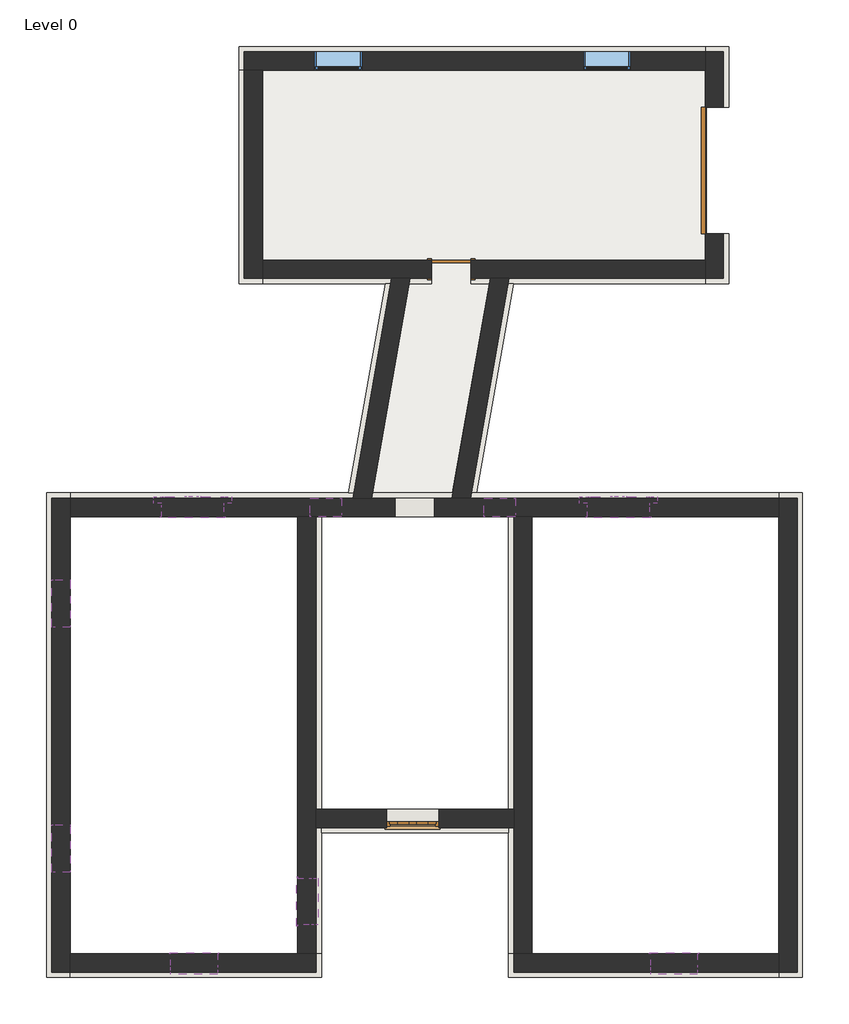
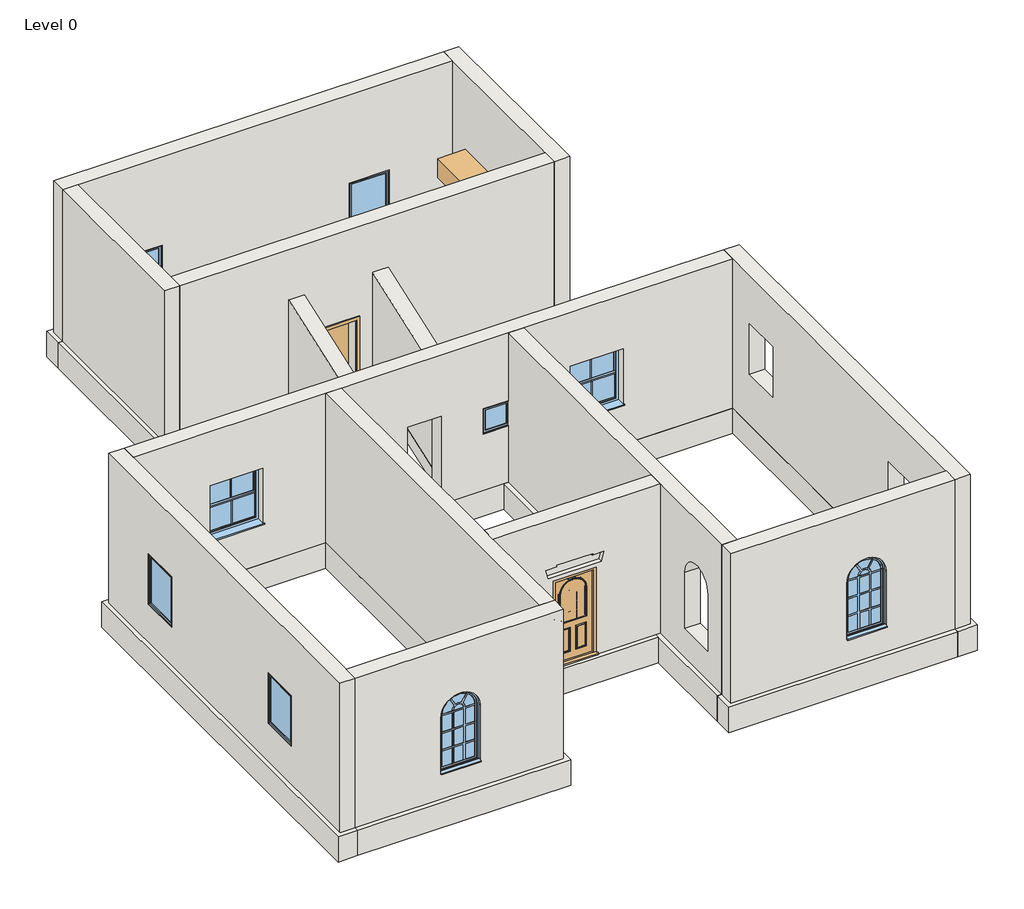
# One storey, incomplete: 28 walls, 11 windows, 3 doors, 1 slab.
"""IFC4 building model written with IfcOpenShell, lengths in millimetres."""

from ifc_helpers import new_model, si_unit, point, frame, frame_2d, origin, origin_with_axes, place, context, project, spatial, polyline, circle_curve, trimmed, segment, composite_curve, outline, extrude, faceted_brep, transform, mapped, element, save
from ifc_brep_helpers import plane_surface, revolved_surface, advanced_brep
from components import door_09d20fc0, door_c5eb6496, uk_extsgl_mdrn_4_1010_x_2110mm_24322308, window_c64d902a, window_15c49d37, uk_mdrn_arched_head_1_uk_mdrn_arched_head_1_ec82c09f, uk_mdrn_arched_head_1_uk_mdrn_arched_head_1_e3e941a3, uk_window_assembly_uk_window_assembly_1f99bae2

model = new_model("IFC4")

# Units and contexts
model_context = context("Model", 3, world=origin())
ifc_project = project(units=[si_unit("LENGTHUNIT", "METRE", prefix="MILLI")], contexts=[model_context])

# Site, building, storey
site = spatial("IfcSite", under=ifc_project)
building = spatial("IfcBuilding", under=site)
storey = spatial("IfcBuildingStorey", under=building, Name="Level 0", Elevation=0.0)

# Doors
placement = place(None, origin())
door_shape = door_09d20fc0(model_context)
element("IfcDoor", 1, ObjectType="Overhead-Rolling : 8' x 6'-6\"", at=placement, inside=storey, context=model_context, shape_type="MappedRepresentation", body=[
    mapped(door_shape, transform((-5844.7185302, 19230.4795167, 0.0), x_axis=(0.0, 1.0, 0.0), y_axis=(-1.0, 0.0, 0.0), z_axis=(0.0, 0.0, 1.0))),
])
door_2_shape = door_c5eb6496(model_context)
element("IfcDoor", 2, ObjectType="Single-Flush : 30\" x 80\"", at=placement, inside=storey, context=model_context, shape_type="MappedRepresentation", body=[
    mapped(door_2_shape, transform((-10970.3286166, 17329.2773619, 0.0), x_axis=(1.0, 0.0, 0.0), y_axis=(0.0, 1.0, 0.0), z_axis=(0.0, 0.0, 1.0))),
])
uk_extsgl_mdrn_4_1010_x_2110mm_shape = uk_extsgl_mdrn_4_1010_x_2110mm_24322308(model_context)
element("IfcDoor", 3, ObjectType="UK_ExtSgl Mdrn 4 : 1010 x 2110mm", at=placement, inside=storey, context=model_context, shape_type="MappedRepresentation", body=[
    mapped(uk_extsgl_mdrn_4_1010_x_2110mm_shape, transform((-11712.9470091, 6742.7649351, 609.6), x_axis=(1.0, 0.0, 0.0), y_axis=(0.0, 1.0, 0.0), z_axis=(0.0, 0.0, 1.0))),
])

# Slab
element("IfcSlab", 4, ObjectType="Wood Joist 10\" - Wood Finish", at=placement, inside=storey, context=model_context, shape_type="SweptSolid", body=[
    extrude(outline(polyline([(-14633.1185302, 21190.0773619), (-6047.9185302, 21190.0773619), (-6047.9185302, 17481.6773619), (-10154.821643, 17481.6773619), (-10959.9276223, 12915.6944585), (-12510.6617584, 12915.6944585), (-11705.555779, 17481.6773619), (-14633.1185302, 17481.6773619), (-14633.1185302, 21190.0773619)])), frame((0.0, 0.0, -19.05), z_axis=(0.0, 0.0, 1.0), x_axis=(1.0, 0.0, 0.0)), (0.0, 0.0, 1.0), 273.05),
])

# Walls
element("IfcWall", 5, ObjectType="Exterior - Brick on Mtl. Stud", at=placement, inside=storey, context=model_context, shape_type="Brep", body=[
    faceted_brep([(-4299.6309015, 3782.4698798, 609.6), (-4299.6309015, 12915.6944585, 609.6), (-4299.6309015, 12915.6944585, 4212.4585686), (-4299.6309015, 3782.4698798, 4212.4585686), (-4299.6309015, 11897.3774351, 3048.0), (-4299.6309015, 11897.3774351, 1828.8), (-4299.6309015, 10982.9774351, 1828.8), (-4299.6309015, 10982.9774351, 3048.0), (-4299.6309015, 6410.9774351, 3048.0), (-4299.6309015, 6410.9774351, 1828.8), (-4299.6309015, 5496.5774351, 1828.8), (-4299.6309015, 5496.5774351, 3048.0), (-4652.0559015, 12915.6944585, 609.6), (-4652.0559015, 12563.2694585, 609.6), (-4652.0559015, 3782.4698798, 609.6), (-4652.0559015, 3782.4698798, 4212.4585686), (-4652.0559015, 12563.2694585, 4212.4585686), (-4652.0559015, 12915.6944585, 4212.4585686), (-4652.0559015, 11897.3774351, 1828.8), (-4652.0559015, 11897.3774351, 3048.0), (-4652.0559015, 10982.9774351, 3048.0), (-4652.0559015, 10982.9774351, 1828.8), (-4652.0559015, 6410.9774351, 1828.8), (-4652.0559015, 6410.9774351, 3048.0), (-4652.0559015, 5496.5774351, 3048.0), (-4652.0559015, 5496.5774351, 1828.8)], [[[0, 1, 2, 3], [4, 5, 6, 7], [8, 9, 10, 11]], [[12, 13, 14, 15, 16, 17], [18, 19, 20, 21], [22, 23, 24, 25]], [[1, 0, 14, 13, 12]], [[3, 2, 17, 16, 15]], [[2, 1, 12, 17]], [[0, 3, 15, 14]], [[4, 19, 18, 5]], [[5, 18, 21, 6]], [[6, 21, 20, 7]], [[19, 4, 7, 20]], [[8, 23, 22, 9]], [[9, 22, 25, 10]], [[10, 25, 24, 11]], [[23, 8, 11, 24]]]),
])
element("IfcWall", 6, ObjectType="Exterior - Brick on Mtl. Stud", at=placement, inside=storey, context=model_context, shape_type="Brep", body=[
    faceted_brep([(-18320.4309015, 12915.6944585, 4212.4585686), (-4652.0559015, 12915.6944585, 4212.4585686), (-4652.0559015, 12915.6944585, 609.6), (-18320.4309015, 12915.6944585, 609.6), (-11292.3810809, 12915.6944585, 711.2), (-11292.3810809, 12915.6944585, 2743.2), (-12054.3810809, 12915.6944585, 2743.2), (-12054.3810809, 12915.6944585, 711.2), (-10339.7673758, 12915.6944585, 2580.5263388), (-10339.7673758, 12915.6944585, 1970.9263388), (-9730.1673758, 12915.6944585, 1970.9263388), (-9730.1673758, 12915.6944585, 2580.5263388), (-13692.5673758, 12915.6944585, 2580.5263388), (-13692.5673758, 12915.6944585, 1970.9263388), (-13082.9673758, 12915.6944585, 1970.9263388), (-13082.9673758, 12915.6944585, 2580.5263388), (-15358.9265784, 12915.6944585, 2912.1863053), (-16558.9265784, 12915.6944585, 2912.1863053), (-16558.9265784, 12915.6944585, 1562.1863053), (-15358.9265784, 12915.6944585, 1562.1863053), (-7148.9673758, 12915.6944585, 2912.1863053), (-8348.9673758, 12915.6944585, 2912.1863053), (-8348.9673758, 12915.6944585, 1562.1863053), (-7148.9673758, 12915.6944585, 1562.1863053), (-4652.0559015, 12563.2694585, 4212.4585686), (-9411.2024004, 12563.2694585, 4212.4585686), (-9763.6274004, 12563.2694585, 4212.4585686), (-13576.8024004, 12563.2694585, 4212.4585686), (-13929.2274004, 12563.2694585, 4212.4585686), (-18320.4309015, 12563.2694585, 4212.4585686), (-18320.4309015, 12563.2694585, 609.6), (-13929.2274004, 12563.2694585, 609.6), (-13576.8024004, 12563.2694585, 609.6), (-9763.6274004, 12563.2694585, 609.6), (-9411.2024004, 12563.2694585, 609.6), (-4652.0559015, 12563.2694585, 609.6), (-11292.3810809, 12563.2694585, 2743.2), (-11292.3810809, 12563.2694585, 711.2), (-12054.3810809, 12563.2694585, 711.2), (-12054.3810809, 12563.2694585, 2743.2), (-10339.7673758, 12563.2694585, 1970.9263388), (-10339.7673758, 12563.2694585, 2580.5263388), (-9730.1673758, 12563.2694585, 2580.5263388), (-9730.1673758, 12563.2694585, 1970.9263388), (-13692.5673758, 12563.2694585, 1970.9263388), (-13692.5673758, 12563.2694585, 2580.5263388), (-13082.9673758, 12563.2694585, 2580.5263388), (-13082.9673758, 12563.2694585, 1970.9263388), (-16558.9265784, 12563.2694585, 2912.1863053), (-15358.9265784, 12563.2694585, 2912.1863053), (-15358.9265784, 12563.2694585, 1562.1863053), (-16558.9265784, 12563.2694585, 1562.1863053), (-8348.9673758, 12563.2694585, 2912.1863053), (-7148.9673758, 12563.2694585, 2912.1863053), (-7148.9673758, 12563.2694585, 1562.1863053), (-8348.9673758, 12563.2694585, 1562.1863053)], [[[0, 1, 2, 3], [4, 5, 6, 7], [8, 9, 10, 11], [12, 13, 14, 15], [16, 17, 18, 19], [20, 21, 22, 23]], [[24, 25, 26, 27, 28, 29, 30, 31, 32, 33, 34, 35], [36, 37, 38, 39], [40, 41, 42, 43], [44, 45, 46, 47], [48, 49, 50, 51], [52, 53, 54, 55]], [[1, 0, 29, 28, 27, 26, 25, 24]], [[3, 2, 35, 34, 33, 32, 31, 30]], [[2, 1, 24, 35]], [[0, 3, 30, 29]], [[37, 4, 7, 38]], [[4, 37, 36, 5]], [[5, 36, 39, 6]], [[6, 39, 38, 7]], [[8, 41, 40, 9]], [[9, 40, 43, 10]], [[10, 43, 42, 11]], [[41, 8, 11, 42]], [[12, 45, 44, 13]], [[13, 44, 47, 14]], [[14, 47, 46, 15]], [[45, 12, 15, 46]], [[16, 49, 48, 17]], [[17, 48, 51, 18]], [[18, 51, 50, 19]], [[49, 16, 19, 50]], [[20, 53, 52, 21]], [[21, 52, 55, 22]], [[22, 55, 54, 23]], [[53, 20, 23, 54]]]),
])
element("IfcWall", 7, ObjectType="Exterior - Brick on Mtl. Stud", at=placement, inside=storey, context=model_context, shape_type="Brep", body=[
    faceted_brep([(-18672.8559015, 12915.6944585, 609.6), (-18672.8559015, 3782.4698798, 609.6), (-18672.8559015, 3782.4698798, 4212.4585686), (-18672.8559015, 12915.6944585, 4212.4585686), (-18672.8559015, 6620.5693986, 1524.0), (-18672.8559015, 6620.5693986, 2743.2), (-18672.8559015, 5706.1693986, 2743.2), (-18672.8559015, 5706.1693986, 1524.0), (-18672.8559015, 11344.9693986, 1524.0), (-18672.8559015, 11344.9693986, 2743.2), (-18672.8559015, 10430.5693986, 2743.2), (-18672.8559015, 10430.5693986, 1524.0), (-18320.4309015, 3782.4698798, 609.6), (-18320.4309015, 4134.8948798, 609.6), (-18320.4309015, 12563.2694585, 609.6), (-18320.4309015, 12915.6944585, 609.6), (-18320.4309015, 12915.6944585, 4212.4585686), (-18320.4309015, 12563.2694585, 4212.4585686), (-18320.4309015, 4134.8948798, 4212.4585686), (-18320.4309015, 3782.4698798, 4212.4585686), (-18320.4309015, 6620.5693986, 2743.2), (-18320.4309015, 6620.5693986, 1524.0), (-18320.4309015, 5706.1693986, 1524.0), (-18320.4309015, 5706.1693986, 2743.2), (-18320.4309015, 11344.9693986, 2743.2), (-18320.4309015, 11344.9693986, 1524.0), (-18320.4309015, 10430.5693986, 1524.0), (-18320.4309015, 10430.5693986, 2743.2)], [[[0, 1, 2, 3], [4, 5, 6, 7], [8, 9, 10, 11]], [[12, 13, 14, 15, 16, 17, 18, 19], [20, 21, 22, 23], [24, 25, 26, 27]], [[1, 0, 15, 14, 13, 12]], [[3, 2, 19, 18, 17, 16]], [[2, 1, 12, 19]], [[0, 3, 16, 15]], [[20, 5, 4, 21]], [[21, 4, 7, 22]], [[22, 7, 6, 23]], [[5, 20, 23, 6]], [[24, 9, 8, 25]], [[25, 8, 11, 26]], [[26, 11, 10, 27]], [[9, 24, 27, 10]]]),
])
element("IfcWall", 8, ObjectType="Exterior - Brick on Mtl. Stud", at=placement, inside=storey, context=model_context, shape_type="AdvancedBrep", body=[
    advanced_brep(
    [(-18320.4309015, 3782.4698798, 609.6), (-13576.8024004, 3782.4698798, 609.6), (-13576.8024004, 3782.4698798, 4212.4585686), (-18320.4309015, 3782.4698798, 4212.4585686), (-16376.4318331, 3782.4698798, 2569.2), (-15476.4318331, 3782.4698798, 2569.2), (-15476.4318331, 3782.4698798, 1219.2), (-16376.4318331, 3782.4698798, 1219.2), (-13576.8024004, 4134.8948798, 609.6), (-13929.2274004, 4134.8948798, 609.6), (-18320.4309015, 4134.8948798, 609.6), (-18320.4309015, 4134.8948798, 4212.4585686), (-13929.2274004, 4134.8948798, 4212.4585686), (-13576.8024004, 4134.8948798, 4212.4585686), (-15476.4318331, 4134.8948798, 2569.2), (-16376.4318331, 4134.8948798, 2569.2), (-16376.4318331, 4134.8948798, 1219.2), (-15476.4318331, 4134.8948798, 1219.2)],
    [
        (0, 1),
        (1, 2),
        (2, 3),
        (3, 0),
        (4, 5, circle_curve(frame((-15926.4318331, 3782.4698798, 2569.2), z_axis=(0.0, 1.0, 0.0), x_axis=(1.0, 0.0, 0.0)), 450.0)),
        (5, 6),
        (6, 7),
        (7, 4),
        (8, 9),
        (9, 10),
        (10, 11),
        (11, 12),
        (12, 13),
        (13, 8),
        (14, 15, circle_curve(frame((-15926.4318331, 4134.8948798, 2569.2), z_axis=(0.0, -1.0, 0.0), x_axis=(1.0, 0.0, 0.0)), 450.0)),
        (15, 16),
        (16, 17),
        (17, 14),
        (0, 10),
        (8, 1),
        (2, 13),
        (11, 3),
        (15, 4),
        (7, 16),
        (14, 5),
        (17, 6),
    ],
    [
        plane_surface(frame((-18496.6434015, 3782.4698798, 609.6), z_axis=(0.0, -1.0, 0.0), x_axis=(1.0, 0.0, 0.0))),
        plane_surface(frame((-18496.6434015, 4134.8948798, 609.6), z_axis=(0.0, 1.0, 0.0), x_axis=(-1.0, 0.0, 0.0))),
        plane_surface(frame((-18496.6434015, 3782.4698798, 609.6), z_axis=(0.0, 0.0, -1.0), x_axis=(0.0, 1.0, 0.0))),
        plane_surface(frame((-13753.0149004, 3782.4698798, 4212.4585686), z_axis=(0.0, 0.0, 1.0), x_axis=(0.0, 1.0, 0.0))),
        plane_surface(frame((-13576.8024004, 3674.7008031, 609.6), z_axis=(1.0, 0.0, 0.0), x_axis=(0.0, 1.0, 0.0))),
        plane_surface(frame((-18320.4309015, 19632.940843, 609.6), z_axis=(-1.0, 0.0, 0.0), x_axis=(0.0, 1.0, 0.0))),
        plane_surface(frame((-16376.4318331, 5658.8948798, 1219.2), z_axis=(1.0, 0.0, 0.0), x_axis=(0.0, -1.0, 0.0))),
        revolved_surface(polyline([(-15476.4318331, 4134.8948798, 2569.2), (-15476.4318331, 3782.4698798, 2569.2)]), (-15926.4318331, 2610.8948798, 2569.2), (0.0, 1.0, 0.0)),
        plane_surface(frame((-15476.4318331, 5658.8948798, 2569.2), z_axis=(-1.0, 0.0, 0.0), x_axis=(0.0, -1.0, 0.0))),
        plane_surface(frame((-15476.4318331, 5658.8948798, 1219.2), z_axis=(0.0, 0.0, 1.0), x_axis=(0.0, -1.0, 0.0))),
    ],
    [
        (0, [[1, 2, 3, 4], [5, 6, 7, 8]]),
        (1, [[9, 10, 11, 12, 13, 14], [15, 16, 17, 18]]),
        (2, [[-1, 19, -10, -9, 20]]),
        (3, [[-3, 21, -13, -12, 22]]),
        (4, [[-2, -20, -14, -21]]),
        (5, [[-4, -22, -11, -19]]),
        (6, [[23, -8, 24, -16]]),
        (7, [[-23, -15, 25, -5]]),
        (8, [[-25, -18, 26, -6]]),
        (9, [[-24, -7, -26, -17]]),
    ],
),
])
element("IfcWall", 9, ObjectType="Exterior - Brick on Mtl. Stud", at=placement, inside=storey, context=model_context, shape_type="AdvancedBrep", body=[
    advanced_brep(
    [(-13576.8024004, 4134.8948798, 609.6), (-13576.8024004, 6566.5524351, 609.6), (-13576.8024004, 6918.9774351, 609.6), (-13576.8024004, 12563.2694585, 609.6), (-13576.8024004, 12563.2694585, 4212.4585686), (-13576.8024004, 6918.9774351, 4212.4585686), (-13576.8024004, 6566.5524351, 4212.4585686), (-13576.8024004, 4134.8948798, 4212.4585686), (-13576.8024004, 5592.0194631, 2569.2), (-13576.8024004, 5592.0194631, 1219.2), (-13576.8024004, 4692.0194631, 1219.2), (-13576.8024004, 4692.0194631, 2569.2), (-13929.2274004, 12563.2694585, 609.6), (-13929.2274004, 4134.8948798, 609.6), (-13929.2274004, 4134.8948798, 4212.4585686), (-13929.2274004, 12563.2694585, 4212.4585686), (-13929.2274004, 5592.0194631, 1219.2), (-13929.2274004, 5592.0194631, 2569.2), (-13929.2274004, 4692.0194631, 2569.2), (-13929.2274004, 4692.0194631, 1219.2)],
    [
        (0, 1),
        (1, 2),
        (2, 3),
        (3, 4),
        (4, 5),
        (5, 6),
        (6, 7),
        (7, 0),
        (8, 9),
        (9, 10),
        (10, 11),
        (11, 8, circle_curve(frame((-13576.8024004, 5142.0194631, 2569.2), z_axis=(-1.0, 0.0, 0.0), x_axis=(0.0, -1.0, 0.0)), 450.0)),
        (12, 13),
        (13, 14),
        (14, 15),
        (15, 12),
        (16, 17),
        (17, 18, circle_curve(frame((-13929.2274004, 5142.0194631, 2569.2), z_axis=(1.0, 0.0, 0.0), x_axis=(0.0, -1.0, 0.0)), 450.0)),
        (18, 19),
        (19, 16),
        (0, 13),
        (12, 3),
        (4, 15),
        (14, 7),
        (16, 9),
        (8, 17),
        (11, 18),
        (10, 19),
    ],
    [
        plane_surface(frame((-13576.8024004, 3674.7008031, 609.6), z_axis=(1.0, 0.0, 0.0), x_axis=(0.0, 1.0, 0.0))),
        plane_surface(frame((-13929.2274004, 3674.7008031, 609.6), z_axis=(-1.0, 0.0, 0.0), x_axis=(0.0, -1.0, 0.0))),
        plane_surface(frame((-13576.8024004, 3958.6823798, 609.6), z_axis=(0.0, 0.0, -1.0), x_axis=(-1.0, 0.0, 0.0))),
        plane_surface(frame((-13576.8024004, 12739.4819585, 4212.4585686), z_axis=(0.0, 0.0, 1.0), x_axis=(-1.0, 0.0, 0.0))),
        plane_surface(frame((-18496.6434015, 4134.8948798, 609.6), z_axis=(0.0, -1.0, 0.0), x_axis=(-1.0, 0.0, 0.0))),
        plane_surface(frame((-18496.6434015, 12563.2694585, 4212.4585686), z_axis=(0.0, 1.0, 0.0), x_axis=(-1.0, 0.0, 0.0))),
        plane_surface(frame((-12405.2274004, 5592.0194631, 1219.2), z_axis=(0.0, -1.0, 0.0), x_axis=(-1.0, 0.0, 0.0))),
        revolved_surface(polyline([(-13576.8024004, 4692.0194631, 2569.2), (-13929.2274004, 4692.0194631, 2569.2)]), (-15453.2274004, 5142.0194631, 2569.2), (1.0, 0.0, 0.0)),
        plane_surface(frame((-12405.2274004, 4692.0194631, 2569.2), z_axis=(0.0, 1.0, 0.0), x_axis=(-1.0, 0.0, 0.0))),
        plane_surface(frame((-12405.2274004, 4692.0194631, 1219.2), z_axis=(0.0, 0.0, 1.0), x_axis=(-1.0, 0.0, 0.0))),
    ],
    [
        (0, [[1, 2, 3, 4, 5, 6, 7, 8], [9, 10, 11, 12]]),
        (1, [[13, 14, 15, 16], [17, 18, 19, 20]]),
        (2, [[-3, -2, -1, 21, -13, 22]]),
        (3, [[-7, -6, -5, 23, -15, 24]]),
        (4, [[-8, -24, -14, -21]]),
        (5, [[-4, -22, -16, -23]]),
        (6, [[25, -9, 26, -17]]),
        (7, [[-26, -12, 27, -18]]),
        (8, [[-27, -11, 28, -19]]),
        (9, [[-25, -20, -28, -10]]),
    ],
),
])
element("IfcWall", 10, ObjectType="Exterior - Brick on Mtl. Stud", at=placement, inside=storey, context=model_context, shape_type="Brep", body=[
    faceted_brep([(-9763.6274004, 6566.5524351, 4212.4585686), (-13576.8024004, 6566.5524351, 4212.4585686), (-13576.8024004, 6566.5524351, 609.6), (-12217.9470091, 6566.5524351, 609.6), (-12217.9470091, 6566.5524351, 2719.6), (-11207.9470091, 6566.5524351, 2719.6), (-11207.9470091, 6566.5524351, 609.6), (-9763.6274004, 6566.5524351, 609.6), (-12375.5560855, 6566.5524351, 3031.231944), (-12110.5560855, 6566.5524351, 3031.231944), (-12120.6041802, 6566.5524351, 3068.731944), (-11305.289838, 6566.5524351, 3068.731944), (-11315.3379327, 6566.5524351, 3031.231944), (-11050.3379327, 6566.5524351, 3031.231944), (-11107.9470091, 6566.5524351, 2816.231944), (-12317.9470091, 6566.5524351, 2816.231944), (-13576.8024004, 6918.9774351, 4212.4585686), (-9763.6274004, 6918.9774351, 4212.4585686), (-9763.6274004, 6918.9774351, 609.6), (-9865.2274004, 6918.9774351, 609.6), (-11207.9470091, 6918.9774351, 609.6), (-11207.9470091, 6918.9774351, 2719.6), (-12217.9470091, 6918.9774351, 2719.6), (-12217.9470091, 6918.9774351, 609.6), (-13475.2024004, 6918.9774351, 609.6), (-13576.8024004, 6918.9774351, 609.6), (-12110.5560855, 6666.5524351, 3031.231944), (-12375.5560855, 6666.5524351, 3031.231944), (-12317.9470091, 6666.5524351, 2816.231944), (-11107.9470091, 6666.5524351, 2816.231944), (-11050.3379327, 6666.5524351, 3031.231944), (-11315.3379327, 6666.5524351, 3031.231944), (-11305.289838, 6666.5524351, 3068.731944), (-12120.6041802, 6666.5524351, 3068.731944)], [[[0, 1, 2, 3, 4, 5, 6, 7], [8, 9, 10, 11, 12, 13, 14, 15]], [[16, 17, 18, 19, 20, 21, 22, 23, 24, 25]], [[2, 25, 24, 23, 3]], [[18, 7, 6, 20, 19]], [[1, 0, 17, 16]], [[2, 1, 16, 25]], [[0, 7, 18, 17]], [[22, 4, 3, 23]], [[5, 21, 20, 6]], [[21, 5, 4, 22]], [[26, 27, 28, 29, 30, 31, 32, 33]], [[27, 26, 9, 8]], [[28, 27, 8, 15]], [[29, 28, 15, 14]], [[30, 29, 14, 13]], [[31, 30, 13, 12]], [[32, 31, 12, 11]], [[33, 32, 11, 10]], [[26, 33, 10, 9]]]),
])
element("IfcWall", 11, ObjectType="Exterior - Brick on Mtl. Stud", at=placement, inside=storey, context=model_context, shape_type="AdvancedBrep", body=[
    advanced_brep(
    [(-9763.6274004, 12563.2694585, 609.6), (-9763.6274004, 6918.9774351, 609.6), (-9763.6274004, 6566.5524351, 609.6), (-9763.6274004, 4134.8948798, 609.6), (-9763.6274004, 4134.8948798, 4212.4585686), (-9763.6274004, 6566.5524351, 4212.4585686), (-9763.6274004, 6918.9774351, 4212.4585686), (-9763.6274004, 12563.2694585, 4212.4585686), (-9763.6274004, 4692.0194631, 2665.0), (-9763.6274004, 4692.0194631, 1315.0), (-9763.6274004, 5592.0194631, 1315.0), (-9763.6274004, 5592.0194631, 2665.0), (-9411.2024004, 4134.8948798, 609.6), (-9411.2024004, 12563.2694585, 609.6), (-9411.2024004, 12563.2694585, 4212.4585686), (-9411.2024004, 4134.8948798, 4212.4585686), (-9411.2024004, 4692.0194631, 1315.0), (-9411.2024004, 4692.0194631, 2665.0), (-9411.2024004, 5592.0194631, 2665.0), (-9411.2024004, 5592.0194631, 1315.0)],
    [
        (0, 1),
        (1, 2),
        (2, 3),
        (3, 4),
        (4, 5),
        (5, 6),
        (6, 7),
        (7, 0),
        (8, 9),
        (9, 10),
        (10, 11),
        (11, 8, circle_curve(frame((-9763.6274004, 5142.0194631, 2665.0), z_axis=(1.0, 0.0, 0.0), x_axis=(0.0, 1.0, 0.0)), 450.0)),
        (12, 13),
        (13, 14),
        (14, 15),
        (15, 12),
        (16, 17),
        (17, 18, circle_curve(frame((-9411.2024004, 5142.0194631, 2665.0), z_axis=(-1.0, 0.0, 0.0), x_axis=(0.0, 1.0, 0.0)), 450.0)),
        (18, 19),
        (19, 16),
        (0, 13),
        (12, 3),
        (4, 15),
        (14, 7),
        (16, 9),
        (8, 17),
        (11, 18),
        (10, 19),
    ],
    [
        plane_surface(frame((-9763.6274004, 5503.5008031, 609.6), z_axis=(-1.0, 0.0, 0.0), x_axis=(0.0, -1.0, 0.0))),
        plane_surface(frame((-9411.2024004, 5503.5008031, 609.6), z_axis=(1.0, 0.0, 0.0), x_axis=(0.0, 1.0, 0.0))),
        plane_surface(frame((-9763.6274004, 12739.4819585, 609.6), z_axis=(0.0, 0.0, -1.0), x_axis=(1.0, 0.0, 0.0))),
        plane_surface(frame((-9763.6274004, 3958.6823798, 4212.4585686), z_axis=(0.0, 0.0, 1.0), x_axis=(1.0, 0.0, 0.0))),
        plane_surface(frame((-10267.0434015, 4134.8948798, 609.6), z_axis=(0.0, -1.0, 0.0), x_axis=(-1.0, 0.0, 0.0))),
        plane_surface(frame((-18496.6434015, 12563.2694585, 4212.4585686), z_axis=(0.0, 1.0, 0.0), x_axis=(-1.0, 0.0, 0.0))),
        plane_surface(frame((-10935.2024004, 4692.0194631, 1315.0), z_axis=(0.0, 1.0, 0.0), x_axis=(1.0, 0.0, 0.0))),
        revolved_surface(polyline([(-9763.6274004, 5592.0194631, 2665.0), (-9411.2024004, 5592.0194631, 2665.0)]), (-7887.2024004, 5142.0194631, 2665.0), (-1.0, 0.0, 0.0)),
        plane_surface(frame((-10935.2024004, 5592.0194631, 2665.0), z_axis=(0.0, -1.0, 0.0), x_axis=(1.0, 0.0, 0.0))),
        plane_surface(frame((-10935.2024004, 5592.0194631, 1315.0), z_axis=(0.0, 0.0, 1.0), x_axis=(1.0, 0.0, 0.0))),
    ],
    [
        (0, [[1, 2, 3, 4, 5, 6, 7, 8], [9, 10, 11, 12]]),
        (1, [[13, 14, 15, 16], [17, 18, 19, 20]]),
        (2, [[-3, -2, -1, 21, -13, 22]]),
        (3, [[-7, -6, -5, 23, -15, 24]]),
        (4, [[-4, -22, -16, -23]]),
        (5, [[-8, -24, -14, -21]]),
        (6, [[25, -9, 26, -17]]),
        (7, [[-26, -12, 27, -18]]),
        (8, [[-27, -11, 28, -19]]),
        (9, [[-25, -20, -28, -10]]),
    ],
),
])
element("IfcWall", 12, ObjectType="Exterior - Brick on Mtl. Stud", at=placement, inside=storey, context=model_context, shape_type="SweptSolid", body=[
    extrude(outline(polyline([(609.6, -9763.6274004), (609.6, -4652.0559015), (4212.4585686, -4652.0559015), (4212.4585686, -9763.6274004), (609.6, -9763.6274004)]), holes=[composite_curve([segment(trimmed(circle_curve(frame_2d((2569.2, -6672.4024572)), 450.0), [point((2569.2, -7122.4024572))], [point((2569.2, -6222.4024572))], True, "CARTESIAN"), True, "CONTINUOUS"), segment(polyline([(2569.2, -6222.4024572), (1219.2, -6222.4024572), (1219.2, -7122.4024572), (2569.2, -7122.4024572)]), True, "CONTINUOUS")], self_intersect=False)]), frame((0.0, 3782.4698798, 0.0), z_axis=(0.0, 1.0, 0.0), x_axis=(0.0, 0.0, 1.0)), (0.0, 0.0, 1.0), 352.425),
])
element("IfcWall", 13, ObjectType="Exterior - Brick on Mtl. Stud", at=placement, inside=storey, context=model_context, shape_type="Brep", body=[
    faceted_brep([(-12510.6617584, 12915.6944585, 609.6), (-12492.7469371, 13017.2944585, 609.6), (-11781.4138502, 17051.4648619, 609.6), (-11763.499029, 17153.0648619, 609.6), (-11763.499029, 17153.0648619, 3048.0), (-12510.6617584, 12915.6944585, 3048.0), (-12868.523482, 12915.6944585, 609.6), (-12868.523482, 12915.6944585, 3048.0), (-12121.3607527, 17153.0648619, 3048.0), (-12121.3607527, 17153.0648619, 609.6)], [[[0, 1, 2, 3, 4, 5]], [[6, 7, 8, 9]], [[3, 2, 1, 0, 6, 9]], [[5, 4, 8, 7]], [[4, 3, 9, 8]], [[0, 5, 7, 6]]]),
])
element("IfcWall", 14, ObjectType="Exterior - Brick on Mtl. Stud", at=placement, inside=storey, context=model_context, shape_type="Brep", body=[
    faceted_brep([(-10212.764893, 17153.0648619, 609.6), (-10230.6797142, 17051.4648619, 609.6), (-10942.0128011, 13017.2944585, 609.6), (-10959.9276223, 12915.6944585, 609.6), (-10959.9276223, 12915.6944585, 3048.0), (-10212.764893, 17153.0648619, 3048.0), (-9854.9031693, 17153.0648619, 609.6), (-9854.9031693, 17153.0648619, 3048.0), (-10602.0658986, 12915.6944585, 3048.0), (-10602.0658986, 12915.6944585, 609.6)], [[[0, 1, 2, 3, 4, 5]], [[6, 7, 8, 9]], [[3, 2, 1, 0, 6, 9]], [[5, 4, 8, 7]], [[0, 5, 7, 6]], [[4, 3, 9, 8]]]),
])
element("IfcWall", 15, ObjectType="Exterior - Brick on Mtl. Stud", at=placement, inside=storey, context=model_context, shape_type="Brep", body=[
    faceted_brep([(-5719.3060302, 21518.6898619, 4267.2), (-5719.3060302, 17153.0648619, 4267.2), (-5719.3060302, 17153.0648619, 609.6), (-5719.3060302, 18011.2795167, 609.6), (-5719.3060302, 18011.2795167, 1981.2), (-5719.3060302, 20449.6795167, 1981.2), (-5719.3060302, 20449.6795167, 609.6), (-5719.3060302, 21518.6898619, 609.6), (-6071.7310302, 17153.0648619, 4267.2), (-6071.7310302, 17505.4898619, 4267.2), (-6071.7310302, 21166.2648619, 4267.2), (-6071.7310302, 21518.6898619, 4267.2), (-6071.7310302, 21518.6898619, 609.6), (-6071.7310302, 21166.2648619, 609.6), (-6071.7310302, 20449.6795167, 609.6), (-6071.7310302, 20449.6795167, 1981.2), (-6071.7310302, 18011.2795167, 1981.2), (-6071.7310302, 18011.2795167, 609.6), (-6071.7310302, 17505.4898619, 609.6), (-6071.7310302, 17153.0648619, 609.6)], [[[0, 1, 2, 3, 4, 5, 6, 7]], [[8, 9, 10, 11, 12, 13, 14, 15, 16, 17, 18, 19]], [[12, 7, 6, 14, 13]], [[2, 19, 18, 17, 3]], [[1, 0, 11, 10, 9, 8]], [[0, 7, 12, 11]], [[2, 1, 8, 19]], [[5, 15, 14, 6]], [[15, 5, 4, 16]], [[16, 4, 3, 17]]]),
])
element("IfcWall", 16, ObjectType="Exterior - Brick on Mtl. Stud", at=placement, inside=storey, context=model_context, shape_type="Brep", body=[
    faceted_brep([(-6071.7310302, 21518.6898619, 609.6), (-14961.7310302, 21518.6898619, 609.6), (-14961.7310302, 21518.6898619, 4267.2), (-6071.7310302, 21518.6898619, 4267.2), (-8424.1651888, 21518.6898619, 2133.6), (-8424.1651888, 21518.6898619, 914.4), (-7509.7651888, 21518.6898619, 914.4), (-7509.7651888, 21518.6898619, 2133.6), (-13605.7651888, 21518.6898619, 2133.6), (-13605.7651888, 21518.6898619, 914.4), (-12691.3651888, 21518.6898619, 914.4), (-12691.3651888, 21518.6898619, 2133.6), (-14961.7310302, 21166.2648619, 609.6), (-14609.3060302, 21166.2648619, 609.6), (-6071.7310302, 21166.2648619, 609.6), (-6071.7310302, 21166.2648619, 4267.2), (-14609.3060302, 21166.2648619, 4267.2), (-14961.7310302, 21166.2648619, 4267.2), (-8424.1651888, 21166.2648619, 914.4), (-8424.1651888, 21166.2648619, 2133.6), (-7509.7651888, 21166.2648619, 2133.6), (-7509.7651888, 21166.2648619, 914.4), (-13605.7651888, 21166.2648619, 914.4), (-13605.7651888, 21166.2648619, 2133.6), (-12691.3651888, 21166.2648619, 2133.6), (-12691.3651888, 21166.2648619, 914.4)], [[[0, 1, 2, 3], [4, 5, 6, 7], [8, 9, 10, 11]], [[12, 13, 14, 15, 16, 17], [18, 19, 20, 21], [22, 23, 24, 25]], [[1, 0, 14, 13, 12]], [[3, 2, 17, 16, 15]], [[2, 1, 12, 17]], [[0, 3, 15, 14]], [[4, 19, 18, 5]], [[5, 18, 21, 6]], [[6, 21, 20, 7]], [[19, 4, 7, 20]], [[8, 23, 22, 9]], [[9, 22, 25, 10]], [[10, 25, 24, 11]], [[23, 8, 11, 24]]]),
])
element("IfcWall", 17, ObjectType="Exterior - Brick on Mtl. Stud", at=placement, inside=storey, context=model_context, shape_type="Brep", body=[
    faceted_brep([(-14961.7310302, 21166.2648619, 609.6), (-14961.7310302, 17153.0648619, 609.6), (-14961.7310302, 17153.0648619, 4267.2), (-14961.7310302, 21166.2648619, 4267.2), (-14609.3060302, 21166.2648619, 609.6), (-14609.3060302, 21166.2648619, 4267.2), (-14609.3060302, 17505.4898619, 4267.2), (-14609.3060302, 17153.0648619, 4267.2), (-14609.3060302, 17153.0648619, 609.6), (-14609.3060302, 17505.4898619, 609.6)], [[[0, 1, 2, 3]], [[4, 5, 6, 7, 8, 9]], [[1, 0, 4, 9, 8]], [[3, 2, 7, 6, 5]], [[2, 1, 8, 7]], [[0, 3, 5, 4]]]),
])
element("IfcWall", 18, ObjectType="Exterior - Brick on Mtl. Stud", at=placement, inside=storey, context=model_context, shape_type="Brep", body=[
    faceted_brep([(-14609.3060302, 17505.4898619, 4267.2), (-6071.7310302, 17505.4898619, 4267.2), (-6071.7310302, 17505.4898619, 609.6), (-10589.3286166, 17505.4898619, 609.6), (-10589.3286166, 17505.4898619, 2032.0), (-11351.3286166, 17505.4898619, 2032.0), (-11351.3286166, 17505.4898619, 609.6), (-14609.3060302, 17505.4898619, 609.6), (-6071.7310302, 17153.0648619, 4267.2), (-14609.3060302, 17153.0648619, 4267.2), (-14609.3060302, 17153.0648619, 609.6), (-12121.3607527, 17153.0648619, 609.6), (-11763.499029, 17153.0648619, 609.6), (-11351.3286166, 17153.0648619, 609.6), (-11351.3286166, 17153.0648619, 2032.0), (-10589.3286166, 17153.0648619, 2032.0), (-10589.3286166, 17153.0648619, 609.6), (-10212.764893, 17153.0648619, 609.6), (-9854.9031693, 17153.0648619, 609.6), (-6071.7310302, 17153.0648619, 609.6)], [[[0, 1, 2, 3, 4, 5, 6, 7]], [[8, 9, 10, 11, 12, 13, 14, 15, 16, 17, 18, 19]], [[2, 19, 18, 17, 16, 3]], [[10, 7, 6, 13, 12, 11]], [[1, 0, 9, 8]], [[2, 1, 8, 19]], [[0, 7, 10, 9]], [[15, 4, 3, 16]], [[4, 15, 14, 5]], [[5, 14, 13, 6]]]),
])
element("IfcWall", 19, ObjectType="Exterior - CMU on Mtl. Stud", at=placement, inside=storey, context=model_context, shape_type="Brep", body=[
    faceted_brep([(-4198.0309015, 3680.8698798, 0.0), (-4198.0309015, 13017.2944585, 0.0), (-4198.0309015, 13017.2944585, 609.6), (-4198.0309015, 3680.8698798, 609.6), (-4652.0559015, 3680.8698798, 0.0), (-4652.0559015, 3680.8698798, 609.6), (-4652.0559015, 3782.4698798, 609.6), (-4652.0559015, 12563.2694585, 609.6), (-4652.0559015, 12915.6944585, 609.6), (-4652.0559015, 13017.2944585, 609.6), (-4652.0559015, 13017.2944585, 0.0), (-4652.0559015, 12563.2694585, 0.0)], [[[0, 1, 2, 3]], [[4, 5, 6, 7, 8, 9, 10, 11]], [[1, 0, 4, 11, 10]], [[3, 2, 9, 8, 7, 6, 5]], [[2, 1, 10, 9]], [[0, 3, 5, 4]]]),
])
element("IfcWall", 20, ObjectType="Exterior - CMU on Mtl. Stud", at=placement, inside=storey, context=model_context, shape_type="Brep", body=[
    faceted_brep([(-18320.4309015, 13017.2944585, 0.0), (-18320.4309015, 13017.2944585, 609.6), (-4652.0559015, 13017.2944585, 609.6), (-4652.0559015, 13017.2944585, 0.0), (-18320.4309015, 12563.2694585, 0.0), (-13929.2274004, 12563.2694585, 0.0), (-13475.2024004, 12563.2694585, 0.0), (-9865.2274004, 12563.2694585, 0.0), (-9411.2024004, 12563.2694585, 0.0), (-4652.0559015, 12563.2694585, 0.0), (-4652.0559015, 12563.2694585, 609.6), (-9411.2024004, 12563.2694585, 609.6), (-9865.2274004, 12563.2694585, 609.6), (-13475.2024004, 12563.2694585, 609.6), (-13929.2274004, 12563.2694585, 609.6), (-18320.4309015, 12563.2694585, 609.6), (-18320.4309015, 12915.6944585, 609.6), (-4652.0559015, 12915.6944585, 609.6)], [[[0, 1, 2, 3]], [[4, 5, 6, 7, 8, 9, 10, 11, 12, 13, 14, 15]], [[2, 1, 16, 15, 14, 13, 12, 11, 10, 17]], [[0, 3, 9, 8, 7, 6, 5, 4]], [[3, 2, 17, 10, 9]], [[1, 0, 4, 15, 16]]]),
])
element("IfcWall", 21, ObjectType="Exterior - CMU on Mtl. Stud", at=placement, inside=storey, context=model_context, shape_type="Brep", body=[
    faceted_brep([(-18774.4559015, 13017.2944585, 0.0), (-18774.4559015, 3680.8698798, 0.0), (-18774.4559015, 3680.8698798, 609.6), (-18774.4559015, 13017.2944585, 609.6), (-18320.4309015, 13017.2944585, 0.0), (-18320.4309015, 13017.2944585, 609.6), (-18320.4309015, 12915.6944585, 609.6), (-18320.4309015, 12563.2694585, 609.6), (-18320.4309015, 4134.8948798, 609.6), (-18320.4309015, 3782.4698798, 609.6), (-18320.4309015, 3680.8698798, 609.6), (-18320.4309015, 3680.8698798, 0.0), (-18320.4309015, 4134.8948798, 0.0), (-18320.4309015, 12563.2694585, 0.0)], [[[0, 1, 2, 3]], [[4, 5, 6, 7, 8, 9, 10, 11, 12, 13]], [[1, 0, 4, 13, 12, 11]], [[3, 2, 10, 9, 8, 7, 6, 5]], [[2, 1, 11, 10]], [[0, 3, 5, 4]]]),
])
element("IfcWall", 22, ObjectType="Exterior - CMU on Mtl. Stud", at=placement, inside=storey, context=model_context, shape_type="Brep", body=[
    faceted_brep([(-18320.4309015, 3680.8698798, 0.0), (-13475.2024004, 3680.8698798, 0.0), (-13475.2024004, 3680.8698798, 609.6), (-18320.4309015, 3680.8698798, 609.6), (-18320.4309015, 4134.8948798, 0.0), (-18320.4309015, 4134.8948798, 609.6), (-13929.2274004, 4134.8948798, 609.6), (-13576.8024004, 4134.8948798, 609.6), (-13475.2024004, 4134.8948798, 609.6), (-13475.2024004, 4134.8948798, 0.0), (-13929.2274004, 4134.8948798, 0.0), (-18320.4309015, 3782.4698798, 609.6)], [[[0, 1, 2, 3]], [[4, 5, 6, 7, 8, 9, 10]], [[1, 0, 4, 10, 9]], [[3, 2, 8, 7, 6, 5, 11]], [[2, 1, 9, 8]], [[0, 3, 11, 5, 4]]]),
])
element("IfcWall", 23, ObjectType="Exterior - CMU on Mtl. Stud", at=placement, inside=storey, context=model_context, shape_type="Brep", body=[
    faceted_brep([(-13475.2024004, 4134.8948798, 0.0), (-13475.2024004, 6464.9524351, 0.0), (-13475.2024004, 6918.9774351, 0.0), (-13475.2024004, 12563.2694585, 0.0), (-13475.2024004, 12563.2694585, 609.6), (-13475.2024004, 6918.9774351, 609.6), (-13475.2024004, 6464.9524351, 609.6), (-13475.2024004, 4134.8948798, 609.6), (-13929.2274004, 4134.8948798, 0.0), (-13929.2274004, 4134.8948798, 609.6), (-13929.2274004, 12563.2694585, 609.6), (-13929.2274004, 12563.2694585, 0.0), (-13576.8024004, 12563.2694585, 609.6), (-13576.8024004, 4134.8948798, 609.6)], [[[0, 1, 2, 3, 4, 5, 6, 7]], [[8, 9, 10, 11]], [[3, 2, 1, 0, 8, 11]], [[7, 6, 5, 4, 12, 10, 9, 13]], [[0, 7, 13, 9, 8]], [[4, 3, 11, 10, 12]]]),
])
element("IfcWall", 24, ObjectType="Exterior - CMU on Mtl. Stud", at=placement, inside=storey, context=model_context, shape_type="Brep", body=[
    faceted_brep([(-13475.2024004, 6464.9524351, 0.0), (-9865.2274004, 6464.9524351, 0.0), (-9865.2274004, 6464.9524351, 609.6), (-13475.2024004, 6464.9524351, 609.6), (-13475.2024004, 6918.9774351, 0.0), (-13475.2024004, 6918.9774351, 609.6), (-12217.9470091, 6918.9774351, 609.6), (-11207.9470091, 6918.9774351, 609.6), (-9865.2274004, 6918.9774351, 609.6), (-9865.2274004, 6918.9774351, 0.0)], [[[0, 1, 2, 3]], [[4, 5, 6, 7, 8, 9]], [[1, 0, 4, 9]], [[3, 2, 8, 7, 6, 5]], [[0, 3, 5, 4]], [[2, 1, 9, 8]]]),
])
element("IfcWall", 25, ObjectType="Exterior - CMU on Mtl. Stud", at=placement, inside=storey, context=model_context, shape_type="Brep", body=[
    faceted_brep([(-9865.2274004, 12563.2694585, 0.0), (-9865.2274004, 6918.9774351, 0.0), (-9865.2274004, 6464.9524351, 0.0), (-9865.2274004, 4134.8948798, 0.0), (-9865.2274004, 4134.8948798, 609.6), (-9865.2274004, 6464.9524351, 609.6), (-9865.2274004, 6918.9774351, 609.6), (-9865.2274004, 12563.2694585, 609.6), (-9411.2024004, 12563.2694585, 0.0), (-9411.2024004, 12563.2694585, 609.6), (-9411.2024004, 4134.8948798, 609.6), (-9411.2024004, 4134.8948798, 0.0), (-9763.6274004, 4134.8948798, 609.6), (-9763.6274004, 12563.2694585, 609.6)], [[[0, 1, 2, 3, 4, 5, 6, 7]], [[8, 9, 10, 11]], [[3, 2, 1, 0, 8, 11]], [[7, 6, 5, 4, 12, 10, 9, 13]], [[4, 3, 11, 10, 12]], [[0, 7, 13, 9, 8]]]),
])
element("IfcWall", 26, ObjectType="Exterior - CMU on Mtl. Stud", at=placement, inside=storey, context=model_context, shape_type="Brep", body=[
    faceted_brep([(-9865.2274004, 3680.8698798, 0.0), (-4652.0559015, 3680.8698798, 0.0), (-4652.0559015, 3680.8698798, 609.6), (-9865.2274004, 3680.8698798, 609.6), (-9865.2274004, 4134.8948798, 0.0), (-9865.2274004, 4134.8948798, 609.6), (-9763.6274004, 4134.8948798, 609.6), (-4652.0559015, 4134.8948798, 609.6), (-4652.0559015, 4134.8948798, 0.0), (-4652.0559015, 3782.4698798, 609.6)], [[[0, 1, 2, 3]], [[4, 5, 6, 7, 8]], [[1, 0, 4, 8]], [[3, 2, 9, 7, 6, 5]], [[0, 3, 5, 4]], [[2, 1, 8, 7, 9]]]),
])
element("IfcWall", 27, ObjectType="Exterior - CMU on Mtl. Stud", at=placement, inside=storey, context=model_context, shape_type="SweptSolid", body=[
    extrude(outline(polyline([(-11781.4138502, 17051.4648619), (-12492.7469371, 13017.2944585), (-12953.7760046, 13017.2944585), (-12242.4429177, 17051.4648619), (-11781.4138502, 17051.4648619)])), origin_with_axes(), (0.0, 0.0, 1.0), 609.6),
])
element("IfcWall", 28, ObjectType="Exterior - CMU on Mtl. Stud", at=placement, inside=storey, context=model_context, shape_type="SweptSolid", body=[
    extrude(outline(polyline([(-10942.0128011, 13017.2944585), (-10230.6797142, 17051.4648619), (-9769.6506468, 17051.4648619), (-10480.9837336, 13017.2944585), (-10942.0128011, 13017.2944585)])), origin_with_axes(), (0.0, 0.0, 1.0), 609.6),
])
element("IfcWall", 29, ObjectType="Exterior - CMU on Mtl. Stud", at=placement, inside=storey, context=model_context, shape_type="Brep", body=[
    faceted_brep([(-5617.7060302, 21620.2898619, 0.0), (-5617.7060302, 21620.2898619, 609.6), (-5617.7060302, 20449.6795167, 609.6), (-5617.7060302, 20449.6795167, 0.0), (-6071.7310302, 21620.2898619, 609.6), (-6071.7310302, 21620.2898619, 0.0), (-6071.7310302, 21166.2648619, 0.0), (-6071.7310302, 20449.6795167, 0.0), (-6071.7310302, 20449.6795167, 609.6), (-6071.7310302, 21166.2648619, 609.6), (-6071.7310302, 21518.6898619, 609.6), (-5719.3060302, 20449.6795167, 609.6)], [[[0, 1, 2, 3]], [[4, 5, 6, 7, 8, 9, 10]], [[5, 0, 3, 7, 6]], [[1, 4, 10, 9, 8, 11, 2]], [[1, 0, 5, 4]], [[3, 2, 11, 8, 7]]]),
    faceted_brep([(-5617.7060302, 17051.4648619, 609.6), (-5617.7060302, 17051.4648619, 0.0), (-5617.7060302, 18011.2795167, 0.0), (-5617.7060302, 18011.2795167, 609.6), (-6071.7310302, 17051.4648619, 0.0), (-6071.7310302, 17051.4648619, 609.6), (-6071.7310302, 17153.0648619, 609.6), (-6071.7310302, 17505.4898619, 609.6), (-6071.7310302, 18011.2795167, 609.6), (-6071.7310302, 18011.2795167, 0.0), (-6071.7310302, 17505.4898619, 0.0), (-5719.3060302, 18011.2795167, 609.6)], [[[0, 1, 2, 3]], [[4, 5, 6, 7, 8, 9, 10]], [[1, 4, 10, 9, 2]], [[5, 0, 3, 11, 8, 7, 6]], [[1, 0, 5, 4]], [[3, 2, 9, 8, 11]]]),
])
element("IfcWall", 30, ObjectType="Exterior - CMU on Mtl. Stud", at=placement, inside=storey, context=model_context, shape_type="Brep", body=[
    faceted_brep([(-6071.7310302, 21620.2898619, 0.0), (-15063.3310302, 21620.2898619, 0.0), (-15063.3310302, 21620.2898619, 609.6), (-6071.7310302, 21620.2898619, 609.6), (-6071.7310302, 21166.2648619, 0.0), (-6071.7310302, 21166.2648619, 609.6), (-14609.3060302, 21166.2648619, 609.6), (-14961.7310302, 21166.2648619, 609.6), (-15063.3310302, 21166.2648619, 609.6), (-15063.3310302, 21166.2648619, 0.0), (-14609.3060302, 21166.2648619, 0.0), (-6071.7310302, 21518.6898619, 609.6)], [[[0, 1, 2, 3]], [[4, 5, 6, 7, 8, 9, 10]], [[1, 0, 4, 10, 9]], [[3, 2, 8, 7, 6, 5, 11]], [[2, 1, 9, 8]], [[0, 3, 11, 5, 4]]]),
])
element("IfcWall", 31, ObjectType="Exterior - CMU on Mtl. Stud", at=placement, inside=storey, context=model_context, shape_type="Brep", body=[
    faceted_brep([(-15063.3310302, 21166.2648619, 0.0), (-15063.3310302, 17051.4648619, 0.0), (-15063.3310302, 17051.4648619, 609.6), (-15063.3310302, 21166.2648619, 609.6), (-14609.3060302, 21166.2648619, 0.0), (-14609.3060302, 21166.2648619, 609.6), (-14609.3060302, 17505.4898619, 609.6), (-14609.3060302, 17153.0648619, 609.6), (-14609.3060302, 17051.4648619, 609.6), (-14609.3060302, 17051.4648619, 0.0), (-14609.3060302, 17505.4898619, 0.0), (-14961.7310302, 21166.2648619, 609.6)], [[[0, 1, 2, 3]], [[4, 5, 6, 7, 8, 9, 10]], [[1, 0, 4, 10, 9]], [[3, 2, 8, 7, 6, 5, 11]], [[2, 1, 9, 8]], [[0, 3, 11, 5, 4]]]),
])
element("IfcWall", 32, ObjectType="Exterior - CMU on Mtl. Stud", at=placement, inside=storey, context=model_context, shape_type="Brep", body=[
    faceted_brep([(-6071.7310302, 17505.4898619, 609.6), (-6071.7310302, 17505.4898619, 0.0), (-10589.3286166, 17505.4898619, 0.0), (-10589.3286166, 17505.4898619, 609.6), (-6071.7310302, 17051.4648619, 0.0), (-6071.7310302, 17051.4648619, 609.6), (-9769.6506468, 17051.4648619, 609.6), (-10230.6797142, 17051.4648619, 609.6), (-10589.3286166, 17051.4648619, 609.6), (-10589.3286166, 17051.4648619, 0.0), (-10230.6797142, 17051.4648619, 0.0), (-9769.6506468, 17051.4648619, 0.0)], [[[0, 1, 2, 3]], [[4, 5, 6, 7, 8, 9, 10, 11]], [[1, 4, 11, 10, 9, 2]], [[5, 0, 3, 8, 7, 6]], [[1, 0, 5, 4]], [[3, 2, 9, 8]]]),
    faceted_brep([(-14609.3060302, 17505.4898619, 0.0), (-14609.3060302, 17505.4898619, 609.6), (-11351.3286166, 17505.4898619, 609.6), (-11351.3286166, 17505.4898619, 0.0), (-14609.3060302, 17051.4648619, 609.6), (-14609.3060302, 17051.4648619, 0.0), (-12242.4429177, 17051.4648619, 0.0), (-11781.4138502, 17051.4648619, 0.0), (-11351.3286166, 17051.4648619, 0.0), (-11351.3286166, 17051.4648619, 609.6), (-11781.4138502, 17051.4648619, 609.6), (-12242.4429177, 17051.4648619, 609.6)], [[[0, 1, 2, 3]], [[4, 5, 6, 7, 8, 9, 10, 11]], [[5, 0, 3, 8, 7, 6]], [[1, 4, 11, 10, 9, 2]], [[1, 0, 5, 4]], [[3, 2, 9, 8]]]),
])

# Windows
window_shape = window_c64d902a(model_context)
element("IfcWindow", 33, ObjectType="Fixed : 24\" x 24\"", at=placement, inside=storey, context=model_context, shape_type="MappedRepresentation", body=[
    mapped(window_shape, transform((-13425.8673758, 12739.4819585, 1056.5263388), x_axis=(-1.0, 0.0, 0.0), y_axis=(0.0, -1.0, 0.0), z_axis=(0.0, 0.0, 1.0))),
])
element("IfcWindow", 34, ObjectType="Fixed : 24\" x 24\"", at=placement, inside=storey, context=model_context, shape_type="MappedRepresentation", body=[
    mapped(window_shape, transform((-10073.0673758, 12739.4819585, 1056.5263388), x_axis=(-1.0, 0.0, 0.0), y_axis=(0.0, -1.0, 0.0), z_axis=(0.0, 0.0, 1.0))),
])
window_2_shape = window_15c49d37(model_context)
element("IfcWindow", 35, ObjectType="Fixed : 36\" x 48\"", at=placement, inside=storey, context=model_context, shape_type="MappedRepresentation", body=[
    mapped(window_2_shape, transform((-18496.6434015, 10925.8693986, 609.6), x_axis=(0.0, 0.9999999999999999, 0.0), y_axis=(-0.9999999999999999, 0.0, 0.0), z_axis=(0.0, 0.0, 1.0))),
])
element("IfcWindow", 36, ObjectType="Fixed : 36\" x 48\"", at=placement, inside=storey, context=model_context, shape_type="MappedRepresentation", body=[
    mapped(window_2_shape, transform((-18496.6434015, 6201.4693986, 609.6), x_axis=(0.0, 0.9999999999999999, 0.0), y_axis=(-0.9999999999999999, 0.0, 0.0), z_axis=(0.0, 0.0, 1.0))),
])
element("IfcWindow", 37, ObjectType="Fixed : 36\" x 48\"", at=placement, inside=storey, context=model_context, shape_type="MappedRepresentation", body=[
    mapped(window_2_shape, transform((-8005.0651888, 21342.4773619, 0.0), x_axis=(-1.0, 0.0, 0.0), y_axis=(0.0, -1.0, 0.0), z_axis=(0.0, 0.0, 1.0))),
])
element("IfcWindow", 38, ObjectType="Fixed : 36\" x 48\"", at=placement, inside=storey, context=model_context, shape_type="MappedRepresentation", body=[
    mapped(window_2_shape, transform((-13186.6651888, 21342.4773619, 0.0), x_axis=(-1.0, 0.0, 0.0), y_axis=(0.0, -1.0, 0.0), z_axis=(0.0, 0.0, 1.0))),
])
uk_mdrn_arched_head_1_uk_mdrn_arched_head_1_shape = uk_mdrn_arched_head_1_uk_mdrn_arched_head_1_ec82c09f(model_context)
element("IfcWindow", 39, ObjectType="UK_Mdrn Arched Head 1 : UK_Mdrn Arched Head 1", at=placement, inside=storey, context=model_context, shape_type="MappedRepresentation", body=[
    mapped(uk_mdrn_arched_head_1_uk_mdrn_arched_head_1_shape, transform((-15641.4318331, 3967.1389476, 459.2), x_axis=(1.0, 0.0, 0.0), y_axis=(0.0, 1.0, 0.0), z_axis=(0.0, 0.0, 1.0))),
])
element("IfcWindow", 40, ObjectType="UK_Mdrn Arched Head 1 : UK_Mdrn Arched Head 1", at=placement, inside=storey, context=model_context, shape_type="MappedRepresentation", body=[
    mapped(uk_mdrn_arched_head_1_uk_mdrn_arched_head_1_shape, transform((-6387.4024572, 3967.1389476, 459.2), x_axis=(1.0, 0.0, 0.0), y_axis=(0.0, 1.0, 0.0), z_axis=(0.0, 0.0, 1.0))),
])
uk_mdrn_arched_head_1_uk_mdrn_arched_head_1_2_shape = uk_mdrn_arched_head_1_uk_mdrn_arched_head_1_e3e941a3(model_context)
element("IfcWindow", 41, ObjectType="UK_Mdrn Arched Head 1 : UK_Mdrn Arched Head 1", at=placement, inside=storey, context=model_context, shape_type="MappedRepresentation", body=[
    mapped(uk_mdrn_arched_head_1_uk_mdrn_arched_head_1_2_shape, transform((-13761.4714683, 4857.0194631, 459.2), x_axis=(0.0, -0.9999999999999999, 0.0), y_axis=(0.9999999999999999, 0.0, 0.0), z_axis=(0.0, 0.0, 1.0))),
])
uk_window_assembly_uk_window_assembly_shape = uk_window_assembly_uk_window_assembly_1f99bae2(model_context)
element("IfcWindow", 42, ObjectType="UK_Window Assembly : UK_Window Assembly", at=placement, inside=storey, context=model_context, shape_type="MappedRepresentation", body=[
    mapped(uk_window_assembly_uk_window_assembly_shape, transform((-8033.9673758, 12731.0253907, 802.1863053), x_axis=(-1.0, 0.0, 0.0), y_axis=(0.0, -1.0, 0.0), z_axis=(0.0, 0.0, 1.0))),
])
element("IfcWindow", 43, ObjectType="UK_Window Assembly : UK_Window Assembly", at=placement, inside=storey, context=model_context, shape_type="MappedRepresentation", body=[
    mapped(uk_window_assembly_uk_window_assembly_shape, transform((-16243.9265784, 12731.0253907, 802.1863053), x_axis=(-1.0, 0.0, 0.0), y_axis=(0.0, -1.0, 0.0), z_axis=(0.0, 0.0, 1.0))),
])

save(model, "model.ifc")
